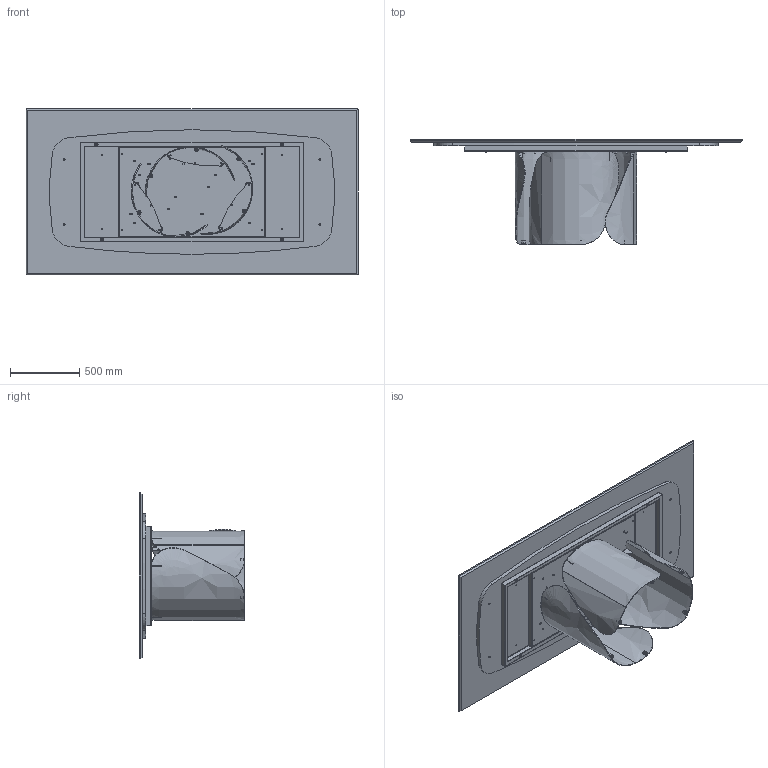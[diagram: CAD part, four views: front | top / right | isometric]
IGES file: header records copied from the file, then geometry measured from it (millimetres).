
Start section: SolidWorks IGES file using analytic representation for surfaces
Global section: file name: Y:\eforma\TECNICO\SOLIDWORKS\E-FORMA\1-TAVOLI\ONDA\02 parts\ON23M.IGS; native system: SolidWorks 2022; preprocessor: SolidWorks 2022; author: eforma.tech; date: 240806.155220; units: millimetre
Bounding box: 2400 x 761 x 1200 mm (x, y, z)
Volume: 113156582.4 mm3; surface area: 15734515.2 mm2
Topology: 60 solids, 60 shells, 1774 faces, 4058 edges, 2411 vertices
Faces by surface type: revolution 1086, plane 628, bspline 60
